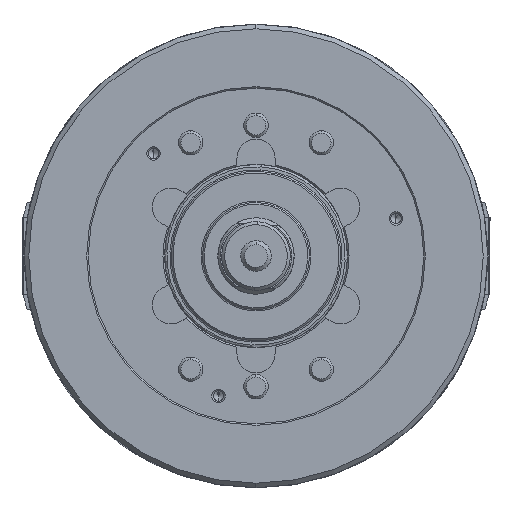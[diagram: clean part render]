
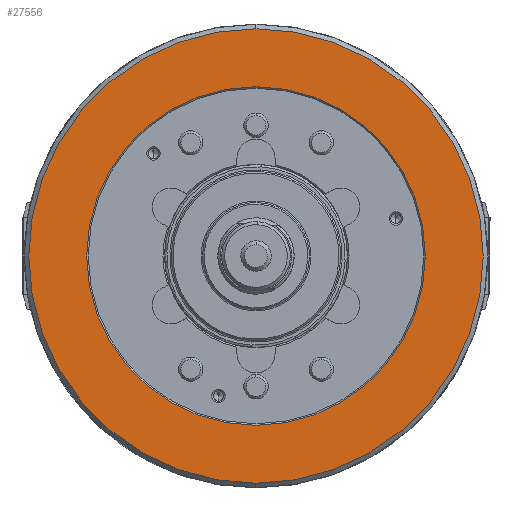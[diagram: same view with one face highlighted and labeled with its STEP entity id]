
A CAD part, left-side view. The second image highlights one B-rep face of the part: STEP entity #27556.
In plain terms, the highlighted planar face has unit normal (-1, 0, 0) as drawn and (0, 0, -1) by its records, which use the part's own axes.
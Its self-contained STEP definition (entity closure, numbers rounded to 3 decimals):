
#296 = VERTEX_POINT ( 'NONE', #10464 ) ;
#702 = EDGE_CURVE ( 'NONE', #27977, #3700, #50115, .T. ) ;
#1509 = PLANE ( 'NONE',  #10549 ) ;
#1955 = AXIS2_PLACEMENT_3D ( 'NONE', #31439, #3682, #36059 ) ;
#3682 = DIRECTION ( 'NONE',  ( 0., 0., 1. ) ) ;
#3700 = VERTEX_POINT ( 'NONE', #41556 ) ;
#5683 = CIRCLE ( 'NONE', #53130, 111. ) ;
#7956 = CARTESIAN_POINT ( 'NONE',  ( -111., 0., -106. ) ) ;
#9694 = FACE_BOUND ( 'NONE', #55428, .T. ) ;
#10464 = CARTESIAN_POINT ( 'NONE',  ( 111., 0., -106. ) ) ;
#10549 = AXIS2_PLACEMENT_3D ( 'NONE', #43216, #47844, #20304 ) ;
#13276 = EDGE_CURVE ( 'NONE', #3700, #27977, #29608, .T. ) ;
#15601 = EDGE_CURVE ( 'NONE', #296, #55579, #31494, .T. ) ;
#16662 = AXIS2_PLACEMENT_3D ( 'NONE', #52295, #52241, #52233 ) ;
#18280 = ORIENTED_EDGE ( 'NONE', *, *, #13276, .F. ) ;
#19050 = ORIENTED_EDGE ( 'NONE', *, *, #31860, .T. ) ;
#20051 = ORIENTED_EDGE ( 'NONE', *, *, #702, .F. ) ;
#20304 = DIRECTION ( 'NONE',  ( 1., 0., 0. ) ) ;
#20422 = DIRECTION ( 'NONE',  ( 0., 0., 1. ) ) ;
#22916 = DIRECTION ( 'NONE',  ( 0., 0., 1. ) ) ;
#27556 = ADVANCED_FACE ( 'NONE', ( #34258, #9694 ), #1509, .F. ) ;
#27977 = VERTEX_POINT ( 'NONE', #37313 ) ;
#29608 = CIRCLE ( 'NONE', #1955, 149. ) ;
#31439 = CARTESIAN_POINT ( 'NONE',  ( 0., 0., -106. ) ) ;
#31494 = CIRCLE ( 'NONE', #46598, 111. ) ;
#31860 = EDGE_CURVE ( 'NONE', #55579, #296, #5683, .T. ) ;
#34258 = FACE_OUTER_BOUND ( 'NONE', #43910, .T. ) ;
#36059 = DIRECTION ( 'NONE',  ( 1., 0., 0. ) ) ;
#37313 = CARTESIAN_POINT ( 'NONE',  ( 149., 0., -106. ) ) ;
#41556 = CARTESIAN_POINT ( 'NONE',  ( -149., 0., -106. ) ) ;
#43216 = CARTESIAN_POINT ( 'NONE',  ( 0., -111., -106. ) ) ;
#43910 = EDGE_LOOP ( 'NONE', ( #20051, #18280 ) ) ;
#46598 = AXIS2_PLACEMENT_3D ( 'NONE', #50470, #22916, #55056 ) ;
#47844 = DIRECTION ( 'NONE',  ( 0., 0., 1. ) ) ;
#47942 = CARTESIAN_POINT ( 'NONE',  ( 0., 0., -106. ) ) ;
#50115 = CIRCLE ( 'NONE', #16662, 149. ) ;
#50470 = CARTESIAN_POINT ( 'NONE',  ( 0., 0., -106. ) ) ;
#52233 = DIRECTION ( 'NONE',  ( 1., 0., 0. ) ) ;
#52241 = DIRECTION ( 'NONE',  ( 0., 0., 1. ) ) ;
#52295 = CARTESIAN_POINT ( 'NONE',  ( 0., 0., -106. ) ) ;
#52576 = DIRECTION ( 'NONE',  ( 1., 0., 0. ) ) ;
#53130 = AXIS2_PLACEMENT_3D ( 'NONE', #47942, #20422, #52576 ) ;
#55056 = DIRECTION ( 'NONE',  ( 1., 0., 0. ) ) ;
#55428 = EDGE_LOOP ( 'NONE', ( #19050, #56745 ) ) ;
#55579 = VERTEX_POINT ( 'NONE', #7956 ) ;
#56745 = ORIENTED_EDGE ( 'NONE', *, *, #15601, .T. ) ;
